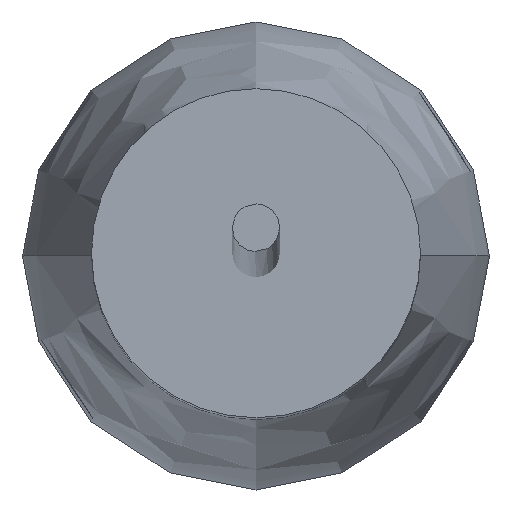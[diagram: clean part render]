
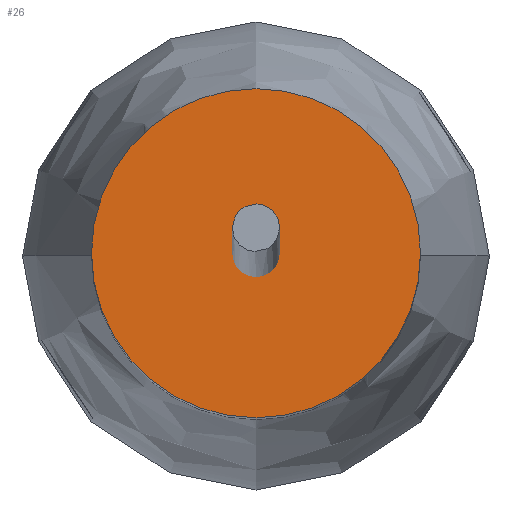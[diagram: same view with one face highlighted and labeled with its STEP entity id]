
A CAD part, top view. The second image highlights one B-rep face of the part: STEP entity #26.
In plain terms, the highlighted planar face has unit normal (0, 0, 1).
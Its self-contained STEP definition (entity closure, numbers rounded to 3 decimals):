
#26=ADVANCED_FACE('',(#37),#154,.T.);
#37=FACE_OUTER_BOUND('',#48,.T.);
#48=EDGE_LOOP('',(#75,#76));
#75=ORIENTED_EDGE('',*,*,#105,.F.);
#76=ORIENTED_EDGE('',*,*,#97,.F.);
#97=EDGE_CURVE('',#140,#145,#118,.T.);
#105=EDGE_CURVE('',#145,#140,#123,.T.);
#118=TRIMMED_CURVE($,#128,(#644),(#645),.T.,.CARTESIAN.);
#123=TRIMMED_CURVE($,#133,(#694),(#695),.T.,.CARTESIAN.);
#128=CIRCLE('',#256,22.5);
#133=CIRCLE('',#261,22.5);
#140=VERTEX_POINT('',#602);
#145=VERTEX_POINT('',#607);
#154=PLANE('',#252);
#252=AXIS2_PLACEMENT_3D('',#463,#276,$);
#256=AXIS2_PLACEMENT_3D($,#643,#281,#282);
#261=AXIS2_PLACEMENT_3D($,#693,#291,#292);
#276=DIRECTION('',(0.,0.,1.));
#281=DIRECTION('',(0.,0.,-1.));
#282=DIRECTION('',(-1.,0.,0.));
#291=DIRECTION('',(0.,0.,-1.));
#292=DIRECTION('',(1.,0.,0.));
#463=CARTESIAN_POINT('',(28.125,-28.125,0.));
#602=CARTESIAN_POINT('',(-22.5,0.,0.));
#607=CARTESIAN_POINT('',(22.5,0.,0.));
#643=CARTESIAN_POINT('',(0.,0.,0.));
#644=CARTESIAN_POINT('',(-22.5,0.,0.));
#645=CARTESIAN_POINT('',(22.5,0.,0.));
#693=CARTESIAN_POINT('',(0.,0.,0.));
#694=CARTESIAN_POINT('',(22.5,0.,0.));
#695=CARTESIAN_POINT('',(-22.5,0.,0.));
